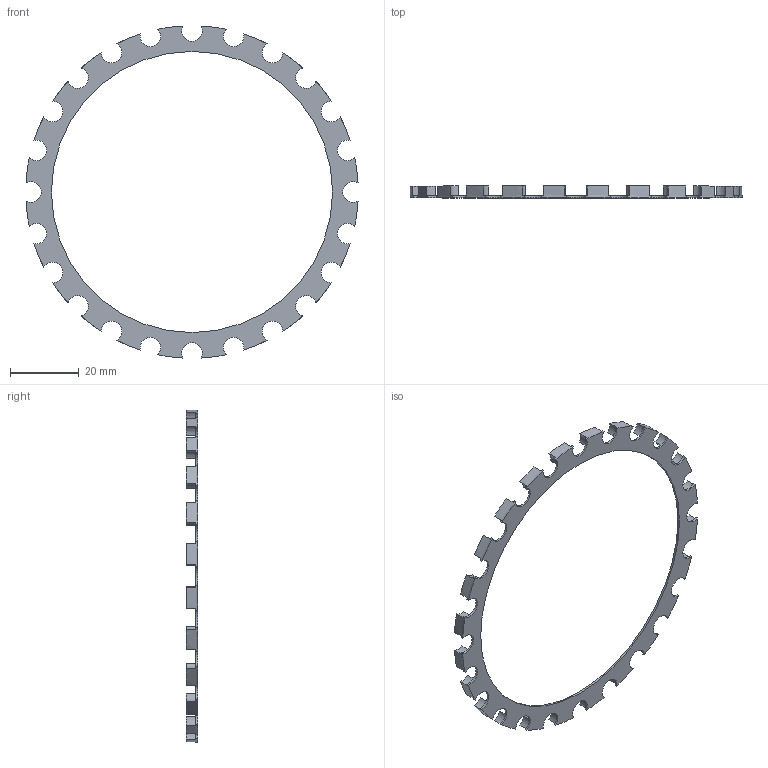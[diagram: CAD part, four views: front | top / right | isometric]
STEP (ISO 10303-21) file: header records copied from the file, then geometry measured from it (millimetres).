
FILE_DESCRIPTION(/* description */ (''),/* implementation_level */ '2;1');
FILE_NAME(/* name */ 'X:\Develop\CAD\NakataOmni\DriveUnitR3\Ratainer_SB_UC.stp',/* time_stamp */ '2024-05-26T16:51:38+09:00',/* author */ ('kumagai'),/* organization */ (''),/* preprocessor_version */ 'ST-DEVELOPER v19',/* originating_system */ 'Autodesk Inventor 2023',/* authorisation */ '');
FILE_SCHEMA (('AUTOMOTIVE_DESIGN { 1 0 10303 214 3 1 1 }'));
Length unit declared in the file: millimetre
Products named in the file (1): Ratainer_IG_SB
Bounding box: 96.86 x 3.4 x 96.86 mm (x, y, z)
Volume: 2053.1 mm3; surface area: 4792.3 mm2
Topology: 1 solids, 1 shells, 147 faces, 435 edges, 290 vertices
Faces by surface type: cylinder 121, plane 26
Full cylindrical faces by diameter (mm): 82 x1
Entity records: 5146 total; most frequent: DIRECTION 1021, CARTESIAN_POINT 873, ORIENTED_EDGE 870, AXIS2_PLACEMENT_3D 438, EDGE_CURVE 435, CIRCLE 290, VERTEX_POINT 290, EDGE_LOOP 149
